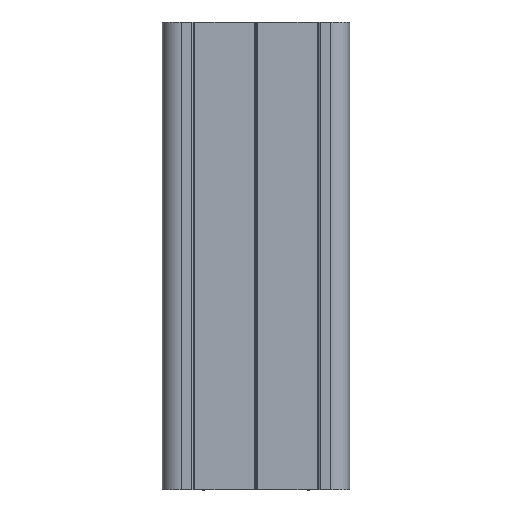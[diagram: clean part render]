
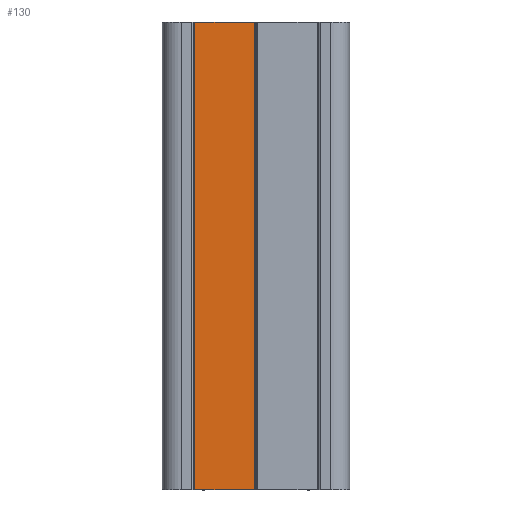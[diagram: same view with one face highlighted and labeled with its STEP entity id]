
A CAD part, top view. The second image highlights one B-rep face of the part: STEP entity #130.
In plain terms, the highlighted planar face has unit normal (0, 0, 1).
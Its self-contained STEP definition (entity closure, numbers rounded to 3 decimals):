
#130=ADVANCED_FACE('',(#337),#338,.T.);
#337=FACE_OUTER_BOUND('',#618,.T.);
#338=PLANE('',#619);
#618=EDGE_LOOP('',(#928,#929,#930,#931));
#619=AXIS2_PLACEMENT_3D('',#932,#933,#934);
#928=ORIENTED_EDGE('',*,*,#1803,.T.);
#929=ORIENTED_EDGE('',*,*,#1804,.F.);
#930=ORIENTED_EDGE('',*,*,#1805,.T.);
#931=ORIENTED_EDGE('',*,*,#1800,.T.);
#932=CARTESIAN_POINT('',(13.322,50.0,0.0));
#933=DIRECTION('',(0.0,0.0,1.0));
#934=DIRECTION('',(-1.0,0.0,0.0));
#1800=EDGE_CURVE('',#2180,#2178,#2181,.T.);
#1803=EDGE_CURVE('',#2178,#2184,#2185,.T.);
#1804=EDGE_CURVE('',#2186,#2184,#2187,.T.);
#1805=EDGE_CURVE('',#2186,#2180,#2188,.T.);
#2178=VERTEX_POINT('',#2729);
#2180=VERTEX_POINT('',#2732);
#2181=LINE('',#2733,#2734);
#2184=VERTEX_POINT('',#2738);
#2185=LINE('',#2739,#2740);
#2186=VERTEX_POINT('',#2741);
#2187=LINE('',#2742,#2743);
#2188=LINE('',#2744,#2745);
#2729=CARTESIAN_POINT('',(6.922,-50.0,0.0));
#2732=CARTESIAN_POINT('',(6.922,50.0,0.0));
#2733=CARTESIAN_POINT('',(6.922,50.0,0.0));
#2734=VECTOR('',#3429,1.0);
#2738=CARTESIAN_POINT('',(19.722,-50.0,0.0));
#2739=CARTESIAN_POINT('',(19.722,-50.0,0.0));
#2740=VECTOR('',#3431,1.0);
#2741=CARTESIAN_POINT('',(19.722,50.0,0.0));
#2742=CARTESIAN_POINT('',(19.722,50.0,0.0));
#2743=VECTOR('',#3432,1.0);
#2744=CARTESIAN_POINT('',(19.722,50.0,0.0));
#2745=VECTOR('',#3433,1.0);
#3429=DIRECTION('',(0.0,-1.0,0.0));
#3431=DIRECTION('',(1.0,0.0,0.0));
#3432=DIRECTION('',(0.0,-1.0,0.0));
#3433=DIRECTION('',(-1.0,0.0,0.0));
